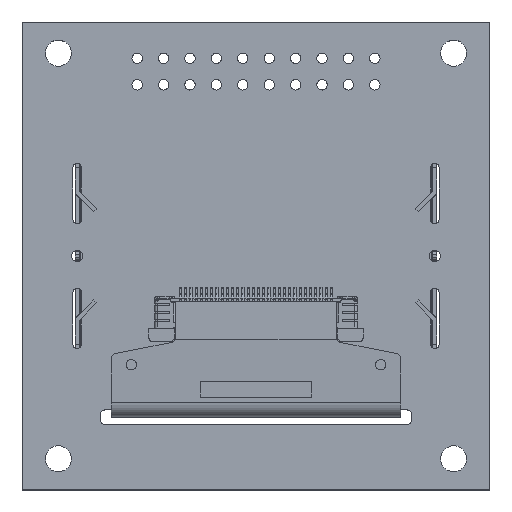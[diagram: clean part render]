
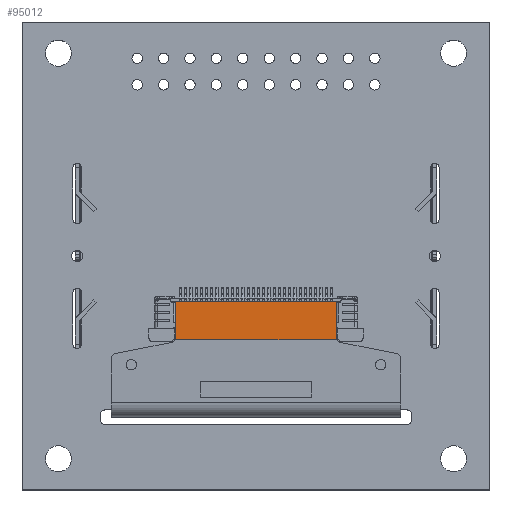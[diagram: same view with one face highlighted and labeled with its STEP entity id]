
A CAD part, top view. The second image highlights one B-rep face of the part: STEP entity #95012.
In plain terms, the highlighted planar face has unit normal (0, 0, 1).
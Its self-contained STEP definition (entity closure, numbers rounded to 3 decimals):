
#1945 = EDGE_CURVE ( 'NONE', #124018, #90800, #32996, .T. ) ;
#7762 = B_SPLINE_CURVE_WITH_KNOTS ( 'NONE', 1,
 ( #12569, #23507 ),
 .UNSPECIFIED., .F., .F.,
 ( 2, 2 ),
 ( 0., 0.015 ),
 .UNSPECIFIED. ) ;
#9350 = VECTOR ( 'NONE', #76067, 1000. ) ;
#11441 = CARTESIAN_POINT ( 'NONE',  ( 3.55, 15.824, 38.454 ) ) ;
#12569 = CARTESIAN_POINT ( 'NONE',  ( 18.95, 19.524, 38.454 ) ) ;
#12988 = FACE_OUTER_BOUND ( 'NONE', #61277, .T. ) ;
#13636 = PLANE ( 'NONE',  #109632 ) ;
#17043 = CARTESIAN_POINT ( 'NONE',  ( 3.55, 17.674, 38.454 ) ) ;
#19579 = EDGE_CURVE ( 'NONE', #59808, #124018, #113728, .T. ) ;
#23507 = CARTESIAN_POINT ( 'NONE',  ( 3.55, 19.524, 38.454 ) ) ;
#32996 = LINE ( 'NONE', #103837, #111678 ) ;
#36961 = EDGE_CURVE ( 'NONE', #66845, #59808, #7762, .T. ) ;
#48375 = ORIENTED_EDGE ( 'NONE', *, *, #19579, .T. ) ;
#56358 = DIRECTION ( 'NONE',  ( 0., -1., 0. ) ) ;
#56637 = CARTESIAN_POINT ( 'NONE',  ( 3.55, 19.524, 38.454 ) ) ;
#59808 = VERTEX_POINT ( 'NONE', #56637 ) ;
#61277 = EDGE_LOOP ( 'NONE', ( #48375, #124974, #61549, #84294 ) ) ;
#61549 = ORIENTED_EDGE ( 'NONE', *, *, #81411, .F. ) ;
#66845 = VERTEX_POINT ( 'NONE', #72637 ) ;
#70465 = CARTESIAN_POINT ( 'NONE',  ( 18.95, 15.824, 38.454 ) ) ;
#72258 = DIRECTION ( 'NONE',  ( 0., 1., 0. ) ) ;
#72637 = CARTESIAN_POINT ( 'NONE',  ( 18.95, 19.524, 38.454 ) ) ;
#76067 = DIRECTION ( 'NONE',  ( 0., -1., 0. ) ) ;
#81411 = EDGE_CURVE ( 'NONE', #66845, #90800, #123772, .T. ) ;
#84294 = ORIENTED_EDGE ( 'NONE', *, *, #36961, .T. ) ;
#90800 = VERTEX_POINT ( 'NONE', #70465 ) ;
#92223 = DIRECTION ( 'NONE',  ( 0., 0., 1. ) ) ;
#95012 = ADVANCED_FACE ( 'NONE', ( #12988 ), #13636, .T. ) ;
#101871 = CARTESIAN_POINT ( 'NONE',  ( 19.258, 15.75, 38.454 ) ) ;
#103837 = CARTESIAN_POINT ( 'NONE',  ( 11.25, 15.824, 38.454 ) ) ;
#109632 = AXIS2_PLACEMENT_3D ( 'NONE', #101871, #92223, #72258 ) ;
#111567 = VECTOR ( 'NONE', #56358, 1000. ) ;
#111678 = VECTOR ( 'NONE', #125536, 1000. ) ;
#113728 = LINE ( 'NONE', #17043, #111567 ) ;
#123169 = CARTESIAN_POINT ( 'NONE',  ( 18.95, 17.674, 38.454 ) ) ;
#123772 = LINE ( 'NONE', #123169, #9350 ) ;
#124018 = VERTEX_POINT ( 'NONE', #11441 ) ;
#124974 = ORIENTED_EDGE ( 'NONE', *, *, #1945, .T. ) ;
#125536 = DIRECTION ( 'NONE',  ( 1., 0., 0. ) ) ;
